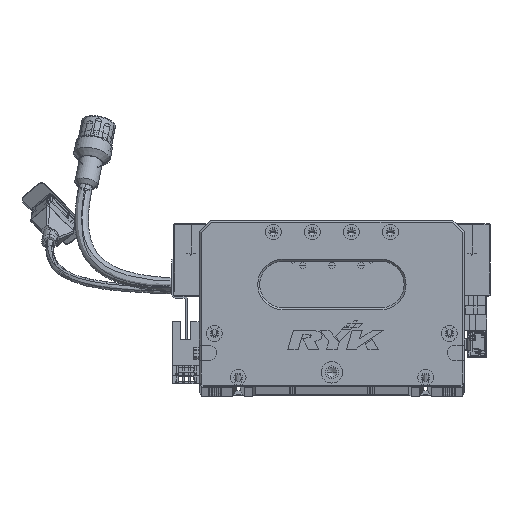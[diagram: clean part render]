
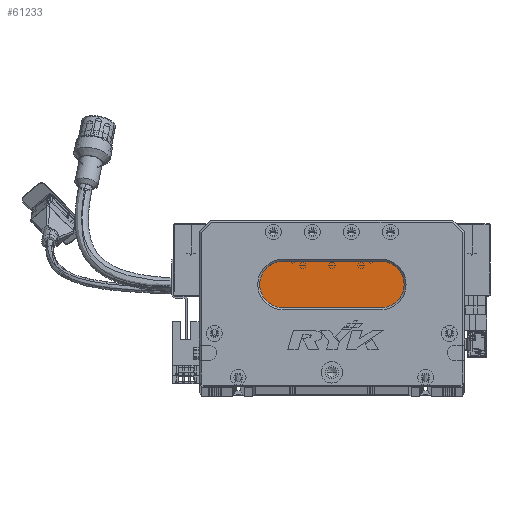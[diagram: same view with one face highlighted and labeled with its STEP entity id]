
A CAD part, top view. The second image highlights one B-rep face of the part: STEP entity #61233.
In plain terms, the highlighted planar face has unit normal (0, 0, 1) as drawn and (0, 0, -1) by its records, which use the part's own axes.
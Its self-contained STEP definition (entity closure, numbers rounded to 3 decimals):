
#2271 = CARTESIAN_POINT ( 'NONE',  ( 93., 52., 13. ) ) ;
#4417 = DIRECTION ( 'NONE',  ( -1., 0., 0. ) ) ;
#6539 = CIRCLE ( 'NONE', #11044, 12. ) ;
#7208 = DIRECTION ( 'NONE',  ( 0., 0., -1. ) ) ;
#7649 = DIRECTION ( 'NONE',  ( -1., 0., 0. ) ) ;
#10032 = EDGE_CURVE ( 'NONE', #96480, #44167, #47685, .T. ) ;
#11044 = AXIS2_PLACEMENT_3D ( 'NONE', #69952, #7208, #7649 ) ;
#12892 = EDGE_CURVE ( 'NONE', #31545, #114215, #56241, .T. ) ;
#14870 = DIRECTION ( 'NONE',  ( 0., 0., -1. ) ) ;
#15119 = FACE_OUTER_BOUND ( 'NONE', #69227, .T. ) ;
#20078 = CARTESIAN_POINT ( 'NONE',  ( 43., 52., 13. ) ) ;
#22506 = AXIS2_PLACEMENT_3D ( 'NONE', #2271, #84493, #22612 ) ;
#22612 = DIRECTION ( 'NONE',  ( -1., 0., 0. ) ) ;
#24157 = CARTESIAN_POINT ( 'NONE',  ( 93., 64., 13. ) ) ;
#25175 = CARTESIAN_POINT ( 'NONE',  ( 93., 40., 13. ) ) ;
#30456 = DIRECTION ( 'NONE',  ( -1., 0., 0. ) ) ;
#31545 = VERTEX_POINT ( 'NONE', #45698 ) ;
#31850 = CARTESIAN_POINT ( 'NONE',  ( 93., 40., 13. ) ) ;
#32192 = AXIS2_PLACEMENT_3D ( 'NONE', #86187, #14870, #4417 ) ;
#32648 = CARTESIAN_POINT ( 'NONE',  ( 43., 64., 13. ) ) ;
#33556 = ORIENTED_EDGE ( 'NONE', *, *, #51270, .T. ) ;
#33895 = EDGE_CURVE ( 'NONE', #114215, #96480, #6539, .T. ) ;
#41329 = DIRECTION ( 'NONE',  ( -1., 0., 0. ) ) ;
#44167 = VERTEX_POINT ( 'NONE', #24157 ) ;
#45698 = CARTESIAN_POINT ( 'NONE',  ( 43., 40., 13. ) ) ;
#47685 = LINE ( 'NONE', #133217, #107451 ) ;
#51270 = EDGE_CURVE ( 'NONE', #117819, #31545, #73907, .T. ) ;
#51916 = ORIENTED_EDGE ( 'NONE', *, *, #10032, .T. ) ;
#56241 = CIRCLE ( 'NONE', #62720, 12. ) ;
#59385 = CIRCLE ( 'NONE', #32192, 12. ) ;
#61233 = ADVANCED_FACE ( 'NONE', ( #15119 ), #106538, .T. ) ;
#61702 = ORIENTED_EDGE ( 'NONE', *, *, #90833, .T. ) ;
#62720 = AXIS2_PLACEMENT_3D ( 'NONE', #20078, #92340, #30456 ) ;
#69227 = EDGE_LOOP ( 'NONE', ( #61702, #33556, #88420, #115501, #51916 ) ) ;
#69952 = CARTESIAN_POINT ( 'NONE',  ( 43., 52., 13. ) ) ;
#73907 = LINE ( 'NONE', #31850, #112861 ) ;
#84493 = DIRECTION ( 'NONE',  ( 0., 0., -1. ) ) ;
#86187 = CARTESIAN_POINT ( 'NONE',  ( 93., 52., 13. ) ) ;
#88420 = ORIENTED_EDGE ( 'NONE', *, *, #12892, .T. ) ;
#90833 = EDGE_CURVE ( 'NONE', #44167, #117819, #59385, .T. ) ;
#92340 = DIRECTION ( 'NONE',  ( 0., 0., -1. ) ) ;
#96480 = VERTEX_POINT ( 'NONE', #32648 ) ;
#106538 = PLANE ( 'NONE',  #22506 ) ;
#107451 = VECTOR ( 'NONE', #111983, 1000. ) ;
#111983 = DIRECTION ( 'NONE',  ( 1., 0., 0. ) ) ;
#112861 = VECTOR ( 'NONE', #41329, 1000. ) ;
#114215 = VERTEX_POINT ( 'NONE', #118005 ) ;
#115501 = ORIENTED_EDGE ( 'NONE', *, *, #33895, .T. ) ;
#117819 = VERTEX_POINT ( 'NONE', #25175 ) ;
#118005 = CARTESIAN_POINT ( 'NONE',  ( 31., 52., 13. ) ) ;
#133217 = CARTESIAN_POINT ( 'NONE',  ( 93., 64., 13. ) ) ;
